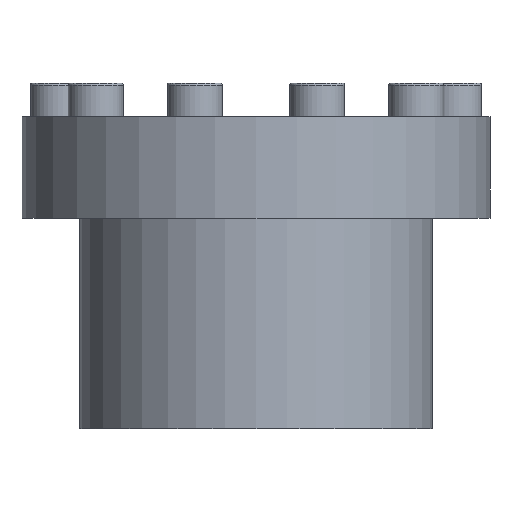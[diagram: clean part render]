
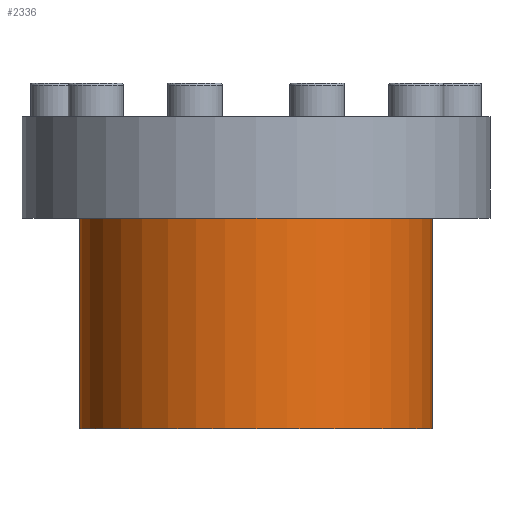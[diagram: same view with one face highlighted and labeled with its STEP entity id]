
A CAD part, front view. The second image highlights one B-rep face of the part: STEP entity #2336.
In plain terms, the highlighted cylindrical face has radius 41.9 mm (diameter 83.8 mm), a partial arc.
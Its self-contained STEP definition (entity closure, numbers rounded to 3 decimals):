
#193 = CARTESIAN_POINT ( 'NONE',  ( 41.9, 0., -24. ) ) ;
#338 = CARTESIAN_POINT ( 'NONE',  ( 0., 0., 0. ) ) ;
#488 = CARTESIAN_POINT ( 'NONE',  ( 41.9, 0., 0. ) ) ;
#653 = DIRECTION ( 'NONE',  ( 0., 0., 1. ) ) ;
#1032 = CIRCLE ( 'NONE', #2038, 41.9 ) ;
#1069 = ORIENTED_EDGE ( 'NONE', *, *, #1181, .F. ) ;
#1181 = EDGE_CURVE ( 'NONE', #3260, #3075, #3720, .T. ) ;
#1221 = CIRCLE ( 'NONE', #1408, 41.9 ) ;
#1347 = EDGE_CURVE ( 'NONE', #3075, #2126, #1221, .T. ) ;
#1408 = AXIS2_PLACEMENT_3D ( 'NONE', #3116, #653, #1707 ) ;
#1495 = ORIENTED_EDGE ( 'NONE', *, *, #1857, .T. ) ;
#1595 = ORIENTED_EDGE ( 'NONE', *, *, #2390, .T. ) ;
#1707 = DIRECTION ( 'NONE',  ( 1., 0., 0. ) ) ;
#1782 = FACE_OUTER_BOUND ( 'NONE', #2769, .T. ) ;
#1857 = EDGE_CURVE ( 'NONE', #3042, #2126, #2520, .T. ) ;
#2038 = AXIS2_PLACEMENT_3D ( 'NONE', #2372, #2928, #2952 ) ;
#2100 = CYLINDRICAL_SURFACE ( 'NONE', #2432, 41.9 ) ;
#2126 = VERTEX_POINT ( 'NONE', #193 ) ;
#2147 = CARTESIAN_POINT ( 'NONE',  ( 41.9, 0., -74. ) ) ;
#2240 = VECTOR ( 'NONE', #3051, 1000. ) ;
#2321 = DIRECTION ( 'NONE',  ( 0., 0., 1. ) ) ;
#2336 = ADVANCED_FACE ( 'NONE', ( #1782 ), #2100, .T. ) ;
#2372 = CARTESIAN_POINT ( 'NONE',  ( 0., 0., -74. ) ) ;
#2390 = EDGE_CURVE ( 'NONE', #3260, #3042, #1032, .T. ) ;
#2432 = AXIS2_PLACEMENT_3D ( 'NONE', #338, #2321, #3160 ) ;
#2482 = CARTESIAN_POINT ( 'NONE',  ( -41.9, 0., -74. ) ) ;
#2520 = LINE ( 'NONE', #488, #2240 ) ;
#2699 = VECTOR ( 'NONE', #3286, 1000. ) ;
#2743 = CARTESIAN_POINT ( 'NONE',  ( -41.9, 0., -24. ) ) ;
#2769 = EDGE_LOOP ( 'NONE', ( #1069, #1595, #1495, #2866 ) ) ;
#2866 = ORIENTED_EDGE ( 'NONE', *, *, #1347, .F. ) ;
#2928 = DIRECTION ( 'NONE',  ( 0., 0., 1. ) ) ;
#2952 = DIRECTION ( 'NONE',  ( 1., 0., 0. ) ) ;
#3042 = VERTEX_POINT ( 'NONE', #2147 ) ;
#3051 = DIRECTION ( 'NONE',  ( 0., 0., 1. ) ) ;
#3075 = VERTEX_POINT ( 'NONE', #2743 ) ;
#3116 = CARTESIAN_POINT ( 'NONE',  ( 0., 0., -24. ) ) ;
#3160 = DIRECTION ( 'NONE',  ( 1., 0., 0. ) ) ;
#3260 = VERTEX_POINT ( 'NONE', #2482 ) ;
#3286 = DIRECTION ( 'NONE',  ( 0., 0., 1. ) ) ;
#3600 = CARTESIAN_POINT ( 'NONE',  ( -41.9, 0., 0. ) ) ;
#3720 = LINE ( 'NONE', #3600, #2699 ) ;
